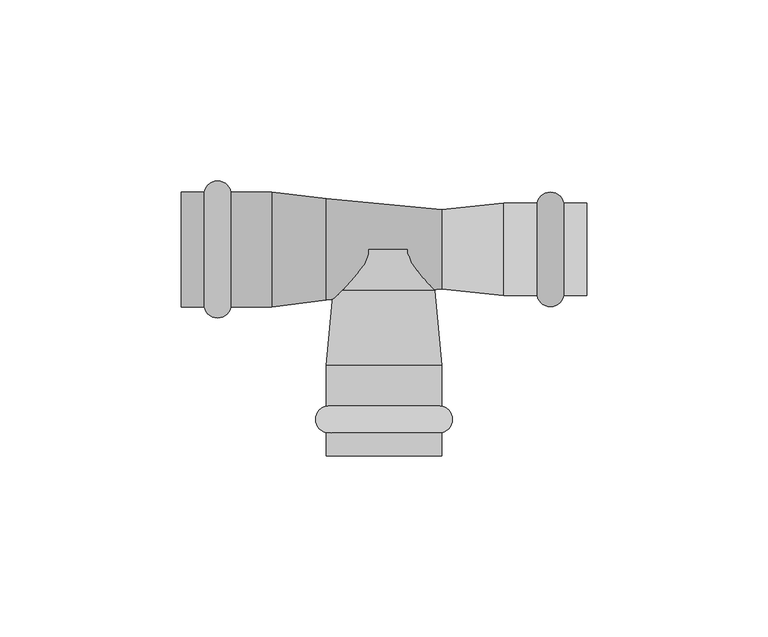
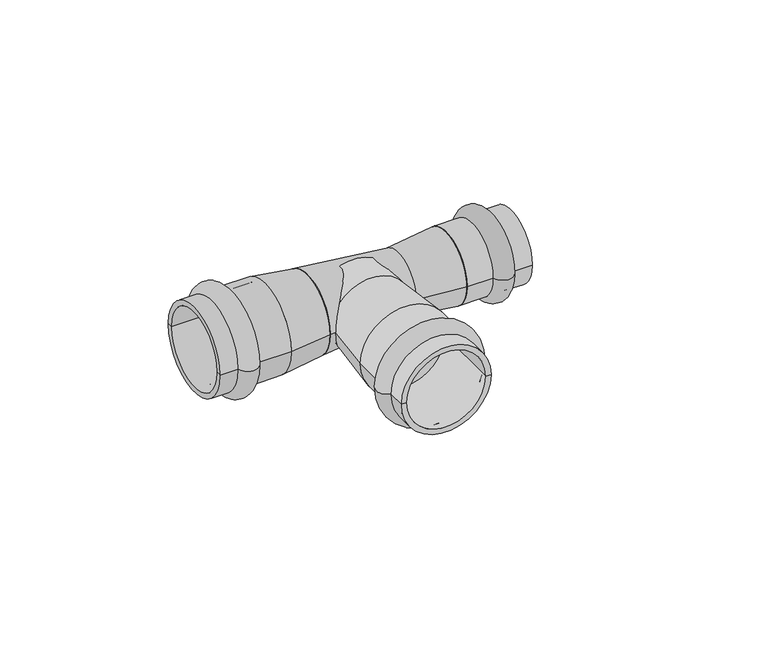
"""IFC4 building model written with IfcOpenShell, lengths in millimetres: pipe fitting geometry, VALTEC_VTi.931.I_Тройник_Ннержавеющая сталь : VTi.931.I."""

from ifc_helpers import new_model, si_unit, point, frame, origin, origin_2d, place, context, project, spatial, polyline, circle_curve, ellipse_curve, trimmed, segment, composite_curve, outline, extrude, source, transform, mapped, element, save
from ifc_brep_helpers import plane_surface, cylinder_surface, revolved_surface, advanced_brep


def pipe_fitting_500c2aa6(model_context):
    return source(origin(), model_context, "Body", "SolidModel", [
        advanced_brep(
        [(15.9, -50.6242346, 0.0), (-15.9, -50.6242346, 0.0), (-15.9, -43.2757654, 0.0), (15.9, -43.2757654, 0.0), (15.9, -57.0, 0.0), (-15.9, -57.0, 0.0), (14.0, -57.0, 0.0), (-14.0, -57.0, 0.0), (14.0, -32.0, 0.0), (-14.0, -32.0, 0.0), (15.9, -32.0, 0.0), (-15.9, -32.0, 0.0)],
        [
            (0, 1, circle_curve(frame((0.0, -50.6242346, 0.0), z_axis=(0.0, 1.0, 0.0), x_axis=(-1.0, 0.0, 0.0)), 15.9)),
            (1, 2, circle_curve(frame((-15.15, -46.95, 0.0), z_axis=(0.0, 0.0, -1.0), x_axis=(0.0, 1.0, 0.0)), 3.75)),
            (2, 3, circle_curve(frame((0.0, -43.2757654, 0.0), z_axis=(0.0, -1.0, 0.0), x_axis=(-1.0, 0.0, 0.0)), 15.9)),
            (3, 0, circle_curve(frame((15.15, -46.95, 0.0), z_axis=(0.0, 0.0, -1.0), x_axis=(0.0, 1.0, 0.0)), 3.75)),
            (1, 0, circle_curve(frame((0.0, -50.6242346, 0.0), z_axis=(0.0, 1.0, 0.0), x_axis=(-1.0, 0.0, 0.0)), 15.9)),
            (3, 2, circle_curve(frame((0.0, -43.2757654, 0.0), z_axis=(0.0, -1.0, 0.0), x_axis=(-1.0, 0.0, 0.0)), 15.9)),
            (4, 5, circle_curve(frame((0.0, -57.0, 0.0), z_axis=(0.0, 1.0, 0.0), x_axis=(-1.0, 0.0, 0.0)), 15.9)),
            (5, 1),
            (0, 4),
            (5, 4, circle_curve(frame((0.0, -57.0, 0.0), z_axis=(0.0, 1.0, 0.0), x_axis=(-1.0, 0.0, 0.0)), 15.9)),
            (6, 7, circle_curve(frame((0.0, -57.0, 0.0), z_axis=(0.0, 1.0, 0.0), x_axis=(-1.0, 0.0, 0.0)), 14.0)),
            (7, 5),
            (4, 6),
            (7, 6, circle_curve(frame((0.0, -57.0, 0.0), z_axis=(0.0, 1.0, 0.0), x_axis=(-1.0, 0.0, 0.0)), 14.0)),
            (8, 9, circle_curve(frame((0.0, -32.0, 0.0), z_axis=(0.0, 1.0, 0.0), x_axis=(-1.0, 0.0, 0.0)), 14.0)),
            (9, 7),
            (6, 8),
            (9, 8, circle_curve(frame((0.0, -32.0, 0.0), z_axis=(0.0, 1.0, 0.0), x_axis=(-1.0, 0.0, 0.0)), 14.0)),
            (10, 11, circle_curve(frame((0.0, -32.0, 0.0), z_axis=(0.0, 1.0, 0.0), x_axis=(-1.0, 0.0, 0.0)), 15.9)),
            (11, 9),
            (8, 10),
            (11, 10, circle_curve(frame((0.0, -32.0, 0.0), z_axis=(0.0, 1.0, 0.0), x_axis=(-1.0, 0.0, 0.0)), 15.9)),
            (2, 11),
            (10, 3),
        ],
        [
            revolved_surface(trimmed(ellipse_curve(frame((-15.15, -46.95, 0.0), z_axis=(0.0, 0.0, 1.0), x_axis=(0.0, 1.0, 0.0)), 3.75, 3.75), [point((-15.9, -43.2757654, 0.0))], [point((-15.9, -50.6242346, 0.0))], True, "CARTESIAN"), (0.0, -60.5364426, 0.0), (0.0, -1.0, 0.0)),
            cylinder_surface(frame((0.0, -60.5364426, 0.0), z_axis=(0.0, -1.0, 0.0), x_axis=(-1.0, 0.0, 0.0)), 15.9),
            plane_surface(frame((0.0, -57.0, 0.0), z_axis=(0.0, -1.0, 0.0), x_axis=(-1.0, 0.0, 0.0))),
            revolved_surface(polyline([(-14.0, -57.0, 0.0), (-14.0, -32.0, 0.0)]), (0.0, -60.5364426, 0.0), (0.0, -1.0, 0.0)),
            plane_surface(frame((0.0, -32.0, 0.0), z_axis=(0.0, 1.0, 0.0), x_axis=(-1.0, 0.0, 0.0))),
        ],
        [
            (0, [[1, 2, 3, 4]]),
            (0, [[5, -4, 6, -2]]),
            (1, [[7, 8, -1, 9]]),
            (1, [[10, -9, -5, -8]]),
            (2, [[11, 12, -7, 13]]),
            (2, [[14, -13, -10, -12]]),
            (3, [[15, 16, -11, 17]]),
            (3, [[18, -17, -14, -16]]),
            (4, [[19, 20, -15, 21]]),
            (4, [[22, -21, -18, -20]]),
            (1, [[-3, 23, -19, 24]]),
            (1, [[-6, -24, -22, -23]]),
        ],
    ),
        advanced_brep(
        [(49.6242346, 12.8, 0.0), (49.6242346, -12.8, 0.0), (42.2757654, -12.8, 0.0), (42.2757654, 12.8, 0.0), (56.0, 12.8, 0.0), (56.0, -12.8, 0.0), (56.0, 11.0, 0.0), (56.0, -11.0, 0.0), (33.0, 11.0, 0.0), (33.0, -11.0, 0.0), (33.0, 12.8, 0.0), (33.0, -12.8, 0.0)],
        [
            (0, 1, circle_curve(frame((49.6242346, 0.0, 0.0), z_axis=(-1.0, 0.0, 0.0), x_axis=(0.0, -1.0, 0.0)), 12.8)),
            (1, 2, circle_curve(frame((45.95, -12.05, 0.0), z_axis=(0.0, 0.0, -1.0), x_axis=(-1.0, 0.0, 0.0)), 3.75)),
            (2, 3, circle_curve(frame((42.2757654, 0.0, 0.0), z_axis=(1.0, 0.0, 0.0), x_axis=(0.0, -1.0, 0.0)), 12.8)),
            (3, 0, circle_curve(frame((45.95, 12.05, 0.0), z_axis=(0.0, 0.0, -1.0), x_axis=(-1.0, 0.0, 0.0)), 3.75)),
            (1, 0, circle_curve(frame((49.6242346, 0.0, 0.0), z_axis=(-1.0, 0.0, 0.0), x_axis=(0.0, -1.0, 0.0)), 12.8)),
            (3, 2, circle_curve(frame((42.2757654, 0.0, 0.0), z_axis=(1.0, 0.0, 0.0), x_axis=(0.0, -1.0, 0.0)), 12.8)),
            (4, 5, circle_curve(frame((56.0, 0.0, 0.0), z_axis=(-1.0, 0.0, 0.0), x_axis=(0.0, -1.0, 0.0)), 12.8)),
            (5, 1),
            (0, 4),
            (5, 4, circle_curve(frame((56.0, 0.0, 0.0), z_axis=(-1.0, 0.0, 0.0), x_axis=(0.0, -1.0, 0.0)), 12.8)),
            (6, 7, circle_curve(frame((56.0, 0.0, 0.0), z_axis=(-1.0, 0.0, 0.0), x_axis=(0.0, -1.0, 0.0)), 11.0)),
            (7, 5),
            (4, 6),
            (7, 6, circle_curve(frame((56.0, 0.0, 0.0), z_axis=(-1.0, 0.0, 0.0), x_axis=(0.0, -1.0, 0.0)), 11.0)),
            (8, 9, circle_curve(frame((33.0, 0.0, 0.0), z_axis=(-1.0, 0.0, 0.0), x_axis=(0.0, -1.0, 0.0)), 11.0)),
            (9, 7),
            (6, 8),
            (9, 8, circle_curve(frame((33.0, 0.0, 0.0), z_axis=(-1.0, 0.0, 0.0), x_axis=(0.0, -1.0, 0.0)), 11.0)),
            (10, 11, circle_curve(frame((33.0, 0.0, 0.0), z_axis=(-1.0, 0.0, 0.0), x_axis=(0.0, -1.0, 0.0)), 12.8)),
            (11, 9),
            (8, 10),
            (11, 10, circle_curve(frame((33.0, 0.0, 0.0), z_axis=(-1.0, 0.0, 0.0), x_axis=(0.0, -1.0, 0.0)), 12.8)),
            (2, 11),
            (10, 3),
        ],
        [
            revolved_surface(trimmed(ellipse_curve(frame((45.95, -12.05, 0.0), z_axis=(0.0, 0.0, 1.0), x_axis=(-1.0, 0.0, 0.0)), 3.75, 3.75), [point((42.2757654, -12.8, 0.0))], [point((49.6242346, -12.8, 0.0))], True, "CARTESIAN"), (59.5364426, 0.0, 0.0), (1.0, 0.0, 0.0)),
            cylinder_surface(frame((59.5364426, 0.0, 0.0), z_axis=(1.0, 0.0, 0.0), x_axis=(0.0, -1.0, 0.0)), 12.8),
            plane_surface(frame((56.0, 0.0, 0.0), z_axis=(1.0, 0.0, 0.0), x_axis=(0.0, -1.0, 0.0))),
            revolved_surface(polyline([(56.0, -11.0, 0.0), (33.0, -11.0, 0.0)]), (59.5364426, 0.0, 0.0), (1.0, 0.0, 0.0)),
            plane_surface(frame((33.0, 0.0, 0.0), z_axis=(-1.0, 0.0, 0.0), x_axis=(0.0, -1.0, 0.0))),
        ],
        [
            (0, [[1, 2, 3, 4]]),
            (0, [[5, -4, 6, -2]]),
            (1, [[7, 8, -1, 9]]),
            (1, [[10, -9, -5, -8]]),
            (2, [[11, 12, -7, 13]]),
            (2, [[14, -13, -10, -12]]),
            (3, [[15, 16, -11, 17]]),
            (3, [[18, -17, -14, -16]]),
            (4, [[19, 20, -15, 21]]),
            (4, [[22, -21, -18, -20]]),
            (1, [[-3, 23, -19, 24]]),
            (1, [[-6, -24, -22, -23]]),
        ],
    ),
        advanced_brep(
        [(-49.6242346, -15.9, 0.0), (-49.6242346, 15.9, 0.0), (-42.2757654, 15.9, 0.0), (-42.2757654, -15.9, 0.0), (-56.0, -15.9, 0.0), (-56.0, 15.9, 0.0), (-56.0, -14.0, 0.0), (-56.0, 14.0, 0.0), (-31.0, -14.0, 0.0), (-31.0, 14.0, 0.0), (-31.0, -15.9, 0.0), (-31.0, 15.9, 0.0)],
        [
            (0, 1, circle_curve(frame((-49.6242346, 0.0, 0.0), z_axis=(1.0, 0.0, 0.0), x_axis=(0.0, 1.0, 0.0)), 15.9)),
            (1, 2, circle_curve(frame((-45.95, 15.15, 0.0), z_axis=(0.0, 0.0, -1.0), x_axis=(1.0, 0.0, 0.0)), 3.75)),
            (2, 3, circle_curve(frame((-42.2757654, 0.0, 0.0), z_axis=(-1.0, 0.0, 0.0), x_axis=(0.0, 1.0, 0.0)), 15.9)),
            (3, 0, circle_curve(frame((-45.95, -15.15, 0.0), z_axis=(0.0, 0.0, -1.0), x_axis=(1.0, 0.0, 0.0)), 3.75)),
            (1, 0, circle_curve(frame((-49.6242346, 0.0, 0.0), z_axis=(1.0, 0.0, 0.0), x_axis=(0.0, 1.0, 0.0)), 15.9)),
            (3, 2, circle_curve(frame((-42.2757654, 0.0, 0.0), z_axis=(-1.0, 0.0, 0.0), x_axis=(0.0, 1.0, 0.0)), 15.9)),
            (4, 5, circle_curve(frame((-56.0, 0.0, 0.0), z_axis=(1.0, 0.0, 0.0), x_axis=(0.0, 1.0, 0.0)), 15.9)),
            (5, 1),
            (0, 4),
            (5, 4, circle_curve(frame((-56.0, 0.0, 0.0), z_axis=(1.0, 0.0, 0.0), x_axis=(0.0, 1.0, 0.0)), 15.9)),
            (6, 7, circle_curve(frame((-56.0, 0.0, 0.0), z_axis=(1.0, 0.0, 0.0), x_axis=(0.0, 1.0, 0.0)), 14.0)),
            (7, 5),
            (4, 6),
            (7, 6, circle_curve(frame((-56.0, 0.0, 0.0), z_axis=(1.0, 0.0, 0.0), x_axis=(0.0, 1.0, 0.0)), 14.0)),
            (8, 9, circle_curve(frame((-31.0, 0.0, 0.0), z_axis=(1.0, 0.0, 0.0), x_axis=(0.0, 1.0, 0.0)), 14.0)),
            (9, 7),
            (6, 8),
            (9, 8, circle_curve(frame((-31.0, 0.0, 0.0), z_axis=(1.0, 0.0, 0.0), x_axis=(0.0, 1.0, 0.0)), 14.0)),
            (10, 11, circle_curve(frame((-31.0, 0.0, 0.0), z_axis=(1.0, 0.0, 0.0), x_axis=(0.0, 1.0, 0.0)), 15.9)),
            (11, 9),
            (8, 10),
            (11, 10, circle_curve(frame((-31.0, 0.0, 0.0), z_axis=(1.0, 0.0, 0.0), x_axis=(0.0, 1.0, 0.0)), 15.9)),
            (2, 11),
            (10, 3),
        ],
        [
            revolved_surface(trimmed(ellipse_curve(frame((-45.95, 15.15, 0.0), z_axis=(0.0, 0.0, 1.0), x_axis=(1.0, 0.0, 0.0)), 3.75, 3.75), [point((-42.2757654, 15.9, 0.0))], [point((-49.6242346, 15.9, 0.0))], True, "CARTESIAN"), (-59.5364426, 0.0, 0.0), (-1.0, 0.0, 0.0)),
            cylinder_surface(frame((-59.5364426, 0.0, 0.0), z_axis=(-1.0, 0.0, 0.0), x_axis=(0.0, 1.0, 0.0)), 15.9),
            plane_surface(frame((-56.0, 0.0, 0.0), z_axis=(-1.0, 0.0, 0.0), x_axis=(0.0, 1.0, 0.0))),
            revolved_surface(polyline([(-56.0, 14.0, 0.0), (-31.0, 14.0, 0.0)]), (-59.5364426, 0.0, 0.0), (-1.0, 0.0, 0.0)),
            plane_surface(frame((-31.0, 0.0, 0.0), z_axis=(1.0, 0.0, 0.0), x_axis=(0.0, 1.0, 0.0))),
        ],
        [
            (0, [[1, 2, 3, 4]]),
            (0, [[5, -4, 6, -2]]),
            (1, [[7, 8, -1, 9]]),
            (1, [[10, -9, -5, -8]]),
            (2, [[11, 12, -7, 13]]),
            (2, [[14, -13, -10, -12]]),
            (3, [[15, 16, -11, 17]]),
            (3, [[18, -17, -14, -16]]),
            (4, [[19, 20, -15, 21]]),
            (4, [[22, -21, -18, -20]]),
            (1, [[-3, 23, -19, 24]]),
            (1, [[-6, -24, -22, -23]]),
        ],
    ),
        advanced_brep(
        [(16.0, -11.0, 0.0), (16.0, 11.0, 0.0), (-16.0, -14.0, 0.0), (-16.0, 14.0, 0.0)],
        [
            (0, 1, circle_curve(frame((16.0, 0.0, 0.0), z_axis=(1.0, 0.0, 0.0), x_axis=(0.0, -1.0, 0.0)), 11.0)),
            (1, 0, circle_curve(frame((16.0, 0.0, 0.0), z_axis=(1.0, 0.0, 0.0), x_axis=(0.0, 1.0, 0.0)), 11.0)),
            (2, 3, circle_curve(frame((-16.0, 0.0, 0.0), z_axis=(-1.0, 0.0, 0.0), x_axis=(0.0, 1.0, 0.0)), 14.0)),
            (3, 2, circle_curve(frame((-16.0, 0.0, 0.0), z_axis=(-1.0, 0.0, 0.0), x_axis=(0.0, -1.0, 0.0)), 14.0)),
            (3, 1),
            (0, 2),
        ],
        [
            plane_surface(frame((16.0, 0.0, 0.0), z_axis=(1.0, 0.0, 0.0), x_axis=(0.0, 0.0, -1.0))),
            plane_surface(frame((-16.0, 0.0, 0.0), z_axis=(-1.0, 0.0, 0.0), x_axis=(0.0, 0.0, -1.0))),
            revolved_surface(polyline([(16.0, -10.999999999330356, 0.0), (-16.0, -14.0, 0.0)]), (133.3333333, 0.0, 0.0), (-1.0, 0.0, 0.0)),
            revolved_surface(polyline([(16.0, 10.999999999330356, 0.0), (-16.0, 14.0, 0.0)]), (133.3333333, 0.0, 0.0), (-1.0, 0.0, 0.0)),
        ],
        [
            (0, [[1, 2]]),
            (1, [[3, 4]]),
            (2, [[-4, 5, -1, 6]]),
            (3, [[-3, -6, -2, -5]]),
        ],
    ),
        advanced_brep(
        [(-15.9, -32.0, 0.0), (15.9, -32.0, 0.0), (-14.0, -11.3209826, 0.0), (14.0, -11.3209826, 0.0)],
        [
            (0, 1, circle_curve(frame((0.0, -32.0, 0.0), z_axis=(0.0, -1.0, 0.0), x_axis=(-1.0, 0.0, 0.0)), 15.9)),
            (1, 0, circle_curve(frame((0.0, -32.0, 0.0), z_axis=(0.0, -1.0, 0.0), x_axis=(1.0, 0.0, 0.0)), 15.9)),
            (2, 3, circle_curve(frame((0.0, -11.3209826, 0.0), z_axis=(0.0, 1.0, 0.0), x_axis=(1.0, 0.0, 0.0)), 14.0)),
            (3, 2, circle_curve(frame((0.0, -11.3209826, 0.0), z_axis=(0.0, 1.0, 0.0), x_axis=(-1.0, 0.0, 0.0)), 14.0)),
            (3, 1),
            (0, 2),
        ],
        [
            plane_surface(frame((0.0, -32.0, 0.0), z_axis=(0.0, -1.0, 0.0), x_axis=(0.0, 0.0, 1.0))),
            plane_surface(frame((0.0, -11.3209826, 0.0), z_axis=(0.0, 1.0, 0.0), x_axis=(0.0, 0.0, 1.0))),
            revolved_surface(polyline([(14.000000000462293, -11.320982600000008, 0.0), (15.9, -32.0, 0.0)]), (0.0, 141.0507246, 0.0), (0.0, -1.0, 0.0)),
            revolved_surface(polyline([(-14.000000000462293, -11.320982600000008, 0.0), (-15.9, -32.0, 0.0)]), (0.0, 141.0507246, 0.0), (0.0, -1.0, 0.0)),
        ],
        [
            (0, [[1, 2]]),
            (1, [[3, 4]]),
            (2, [[-4, 5, -1, 6]]),
            (3, [[-3, -6, -2, -5]]),
        ],
    ),
        extrude(outline(composite_curve([segment(trimmed(circle_curve(origin_2d(), 14.0), [point((0.0, -14.0))], [point((0.0, 14.0))], False, "CARTESIAN"), True, "CONTINUOUS"), segment(trimmed(circle_curve(origin_2d(), 14.0), [point((0.0, 14.0))], [point((0.0, -14.0))], False, "CARTESIAN"), True, "CONTINUOUS")], self_intersect=False)), frame((0.0, -11.3209826, 0.0), z_axis=(0.0, 1.0, 0.0), x_axis=(0.0, 0.0, 1.0)), (0.0, 0.0, 1.0), 11.3209826),
        advanced_brep(
        [(33.0, -12.8, 0.0), (33.0, 12.8, 0.0), (16.0, -11.0, 0.0), (16.0, 11.0, 0.0)],
        [
            (0, 1, circle_curve(frame((33.0, 0.0, 0.0), z_axis=(1.0, 0.0, 0.0), x_axis=(0.0, -1.0, 0.0)), 12.8)),
            (1, 0, circle_curve(frame((33.0, 0.0, 0.0), z_axis=(1.0, 0.0, 0.0), x_axis=(0.0, 1.0, 0.0)), 12.8)),
            (2, 3, circle_curve(frame((16.0, 0.0, 0.0), z_axis=(-1.0, 0.0, 0.0), x_axis=(0.0, 1.0, 0.0)), 11.0)),
            (3, 2, circle_curve(frame((16.0, 0.0, 0.0), z_axis=(-1.0, 0.0, 0.0), x_axis=(0.0, -1.0, 0.0)), 11.0)),
            (3, 1),
            (0, 2),
        ],
        [
            plane_surface(frame((33.0, 0.0, 0.0), z_axis=(1.0, 0.0, 0.0), x_axis=(0.0, 0.0, 1.0))),
            plane_surface(frame((16.0, 0.0, 0.0), z_axis=(-1.0, 0.0, 0.0), x_axis=(0.0, 0.0, 1.0))),
            revolved_surface(polyline([(16.0, 11.000000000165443, 0.0), (33.0, 12.8, 0.0)]), (-87.8888889, 0.0, 0.0), (1.0, 0.0, 0.0)),
            revolved_surface(polyline([(16.0, -11.000000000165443, 0.0), (33.0, -12.8, 0.0)]), (-87.8888889, 0.0, 0.0), (1.0, 0.0, 0.0)),
        ],
        [
            (0, [[1, 2]]),
            (1, [[3, 4]]),
            (2, [[-4, 5, -1, 6]]),
            (3, [[-3, -6, -2, -5]]),
        ],
    ),
        advanced_brep(
        [(-31.0, -15.9, 0.0), (-31.0, 15.9, 0.0), (-16.0, -14.0, 0.0), (-16.0, 14.0, 0.0)],
        [
            (0, 1, circle_curve(frame((-31.0, 0.0, 0.0), z_axis=(-1.0, 0.0, 0.0), x_axis=(0.0, -1.0, 0.0)), 15.9)),
            (1, 0, circle_curve(frame((-31.0, 0.0, 0.0), z_axis=(-1.0, 0.0, 0.0), x_axis=(0.0, 1.0, 0.0)), 15.9)),
            (2, 3, circle_curve(frame((-16.0, 0.0, 0.0), z_axis=(1.0, 0.0, 0.0), x_axis=(0.0, 1.0, 0.0)), 14.0)),
            (3, 2, circle_curve(frame((-16.0, 0.0, 0.0), z_axis=(1.0, 0.0, 0.0), x_axis=(0.0, -1.0, 0.0)), 14.0)),
            (2, 0),
            (1, 3),
        ],
        [
            plane_surface(frame((-31.0, 0.0, 0.0), z_axis=(-1.0, 0.0, 0.0), x_axis=(0.0, 0.0, -1.0))),
            plane_surface(frame((-16.0, 0.0, 0.0), z_axis=(1.0, 0.0, 0.0), x_axis=(0.0, 0.0, -1.0))),
            revolved_surface(polyline([(-16.0, -14.000000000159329, 0.0), (-31.0, -15.9, 0.0)]), (94.5263158, 0.0, 0.0), (-1.0, 0.0, 0.0)),
            revolved_surface(polyline([(-16.0, 14.000000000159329, 0.0), (-31.0, 15.9, 0.0)]), (94.5263158, 0.0, 0.0), (-1.0, 0.0, 0.0)),
        ],
        [
            (0, [[1, 2]]),
            (1, [[3, 4]]),
            (2, [[-3, 5, -2, 6]]),
            (3, [[-4, -6, -1, -5]]),
        ],
    ),
    ])


if __name__ == "__main__":
    model = new_model("IFC4")
    model_context = context("Model", 3, world=origin())
    ifc_project = project(units=[si_unit("LENGTHUNIT", "METRE", prefix="MILLI")], contexts=[model_context])
    site = spatial("IfcSite", under=ifc_project)
    building = spatial("IfcBuilding", under=site)
    placement = place(None, origin())
    pipe_fitting_shape = pipe_fitting_500c2aa6(model_context)
    element("IfcPipeFitting", 1, ObjectType="VALTEC_VTi.931.I_Тройник_Ннержавеющая сталь : VTi.931.I", at=placement, inside=building, context=model_context, shape_type="MappedRepresentation", body=[
        mapped(pipe_fitting_shape, transform((0.0, 0.0, 0.0), x_axis=(1.0, 0.0, 0.0), y_axis=(0.0, 1.0, 0.0), z_axis=(0.0, 0.0, 1.0))),
    ])
    save(model, "model.ifc")
